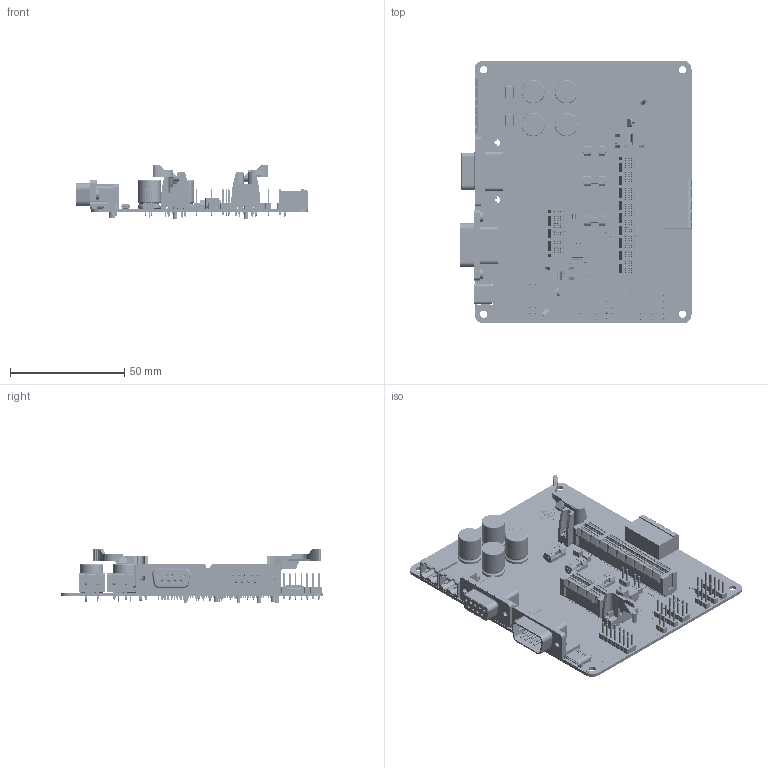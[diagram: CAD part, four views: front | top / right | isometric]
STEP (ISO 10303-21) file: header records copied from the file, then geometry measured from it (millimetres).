
FILE_DESCRIPTION(/* description */ (''),/* implementation_level */ '2;1');
FILE_NAME(/* name */ 'C:/work/PADS designs/SlotTypeModule/TMCM-BB1/V11/3D/TMCM-BB1_V11.step',/* time_stamp */ '2020-05-13T13:49:23+03:00',/* author */ (''),/* organization */ (''),/* preprocessor_version */ 'ST-DEVELOPER v18.1',/* originating_system */ 'Autodesk Translation Framework v9.3.0.1241',/* authorisation */ '');
FILE_SCHEMA (('AUTOMOTIVE_DESIGN { 1 0 10303 214 3 1 1 }'));
Products named in the file (101): TMCM-BB1_V11; DesignRootModel; Submodel-ICB2EF59_part_simplified_HSO8P_1.27BA; Submodel-C:workDS designslotTypeModuleTMCM-BB1V11CADTMCM-BB1_V11_PCB3
DInput_Shsop8.xtd; hsop8; Submodel-CO854A85_part_simplified_PCIE-036_1.0B; Submodel-C:workDS designslotTypeModuleTMCM-BB1V11CADTMCM-BB1_V11_PCB3
DInput_SIE-036-02-F-D-TH.xtd; PCIE-036-02-F-D-TH; Submodel-CO4D69F5_part_simplified_PCIE-098_1.0B; Submodel-C:workDS designslotTypeModuleTMCM-BB1V11CADTMCM-BB1_V11_PCB3
DInput_SIE-098-02-F-D-TH.xtd; PCIE-098-02-F-D-TH; Submodel-CODB02A8_part_simplified_USB-C_HA; Submodel-C:workDS designslotTypeModuleTMCM-BB1V11CADTMCM-BB1_V11_PCB3
DInput_SUSB-c_right.xtd; USB-c_right; Submodel-ME5551FE_part_simplified_10042618A; Submodel-C:workDS designslotTypeModuleTMCM-BB1V11CADTMCM-BB1_V11_PCB3
DInput_Sretention clip.xtd; retention clip; Submodel-DI732B18_part_simplified_SMBA; Submodel-DI75D999_part_simplified_SMBA; Submodel-C:workDS designslotTypeModuleTMCM-BB1V11CADTMCM-BB1_V11_PCB3
DInput_Ssmb.xtd; smb; Submodel-CO0C6E35_part_simplified_PT115-T330-02_5.0B; Submodel-C:workDS designslotTypeModuleTMCM-BB1V11CADTMCM-BB1_V11_PCB3
DInput_Spt115-t330-02.xtd; pt115-t330-02; Submodel-CAB889E8_part_simplified_C1206B; Submodel-C:workDS designslotTypeModuleTMCM-BB1V11CADTMCM-BB1_V11_PCB3
DInput_Sc1206.xtd; c1206; Submodel-CA946C0B_part_simplified_EL125THB; Submodel-CA0079F7_part_simplified_C1210B; Submodel-CA8F93C6_part_simplified_C1210B; Submodel-C:workDS designslotTypeModuleTMCM-BB1V11CADTMCM-BB1_V11_PCB3
DInput_Sc1210.xtd; c1210; Submodel-CA154AA4_part_simplified_EL125THB; Submodel-C:workDS designslotTypeModuleTMCM-BB1V11CADTMCM-BB1_V11_PCB3
DInput_SEl125_TH.xtd; El125_TH; Submodel-RE7FD55C_part_simplified_R0402; Submodel-REAF2B4A_part_simplified_R0402; Submodel-RE9261F8_part_simplified_R0603; Submodel-RE7B8EC4_part_simplified_R0603; Submodel-LE8F4187_part_simplified_L0603 ...
Assembly tree (150 placements, depth 5):
  TMCM-BB1_V11
    DesignRootModel
      Submodel-ICB2EF59_part_simplified_HSO8P_1.27BA
        Submodel-C:workDS designslotTypeModuleTMCM-BB1V11CADTMCM-BB1_V11_PCB3
DInput_Shsop8.xtd
          hsop8
      Submodel-CO854A85_part_simplified_PCIE-036_1.0B
        Submodel-C:workDS designslotTypeModuleTMCM-BB1V11CADTMCM-BB1_V11_PCB3
DInput_SIE-036-02-F-D-TH.xtd
          PCIE-036-02-F-D-TH
      Submodel-CO4D69F5_part_simplified_PCIE-098_1.0B
        Submodel-C:workDS designslotTypeModuleTMCM-BB1V11CADTMCM-BB1_V11_PCB3
DInput_SIE-098-02-F-D-TH.xtd
          PCIE-098-02-F-D-TH
      Submodel-CODB02A8_part_simplified_USB-C_HA
        Submodel-C:workDS designslotTypeModuleTMCM-BB1V11CADTMCM-BB1_V11_PCB3
DInput_SUSB-c_right.xtd
          USB-c_right
      Submodel-ME5551FE_part_simplified_10042618A  x2
        Submodel-C:workDS designslotTypeModuleTMCM-BB1V11CADTMCM-BB1_V11_PCB3
DInput_Sretention clip.xtd
          retention clip
      Submodel-DI732B18_part_simplified_SMBA
        Submodel-C:workDS designslotTypeModuleTMCM-BB1V11CADTMCM-BB1_V11_PCB3
DInput_Ssmb.xtd
          smb
      Submodel-DI75D999_part_simplified_SMBA
        Submodel-C:workDS designslotTypeModuleTMCM-BB1V11CADTMCM-BB1_V11_PCB3
DInput_Ssmb.xtd
          smb
      Submodel-CO0C6E35_part_simplified_PT115-T330-02_5.0B  x2
        Submodel-C:workDS designslotTypeModuleTMCM-BB1V11CADTMCM-BB1_V11_PCB3
DInput_Spt115-t330-02.xtd
          pt115-t330-02
      Submodel-CAB889E8_part_simplified_C1206B  x2
        Submodel-C:workDS designslotTypeModuleTMCM-BB1V11CADTMCM-BB1_V11_PCB3
DInput_Sc1206.xtd
          c1206
      Submodel-CA946C0B_part_simplified_EL125THB  x2
        Submodel-C:workDS designslotTypeModuleTMCM-BB1V11CADTMCM-BB1_V11_PCB3
DInput_SEl125_TH.xtd
          El125_TH
      Submodel-CA0079F7_part_simplified_C1210B  x2
        Submodel-C:workDS designslotTypeModuleTMCM-BB1V11CADTMCM-BB1_V11_PCB3
DInput_Sc1210.xtd
          c1210
      Submodel-CA8F93C6_part_simplified_C1210B  x2
        Submodel-C:workDS designslotTypeModuleTMCM-BB1V11CADTMCM-BB1_V11_PCB3
DInput_Sc1210.xtd
          c1210
      Submodel-CA154AA4_part_simplified_EL125THB  x2
        Submodel-C:workDS designslotTypeModuleTMCM-BB1V11CADTMCM-BB1_V11_PCB3
DInput_SEl125_TH.xtd
          El125_TH
      Submodel-RE7FD55C_part_simplified_R0402
        Submodel-C:workDS designslotTypeModuleTMCM-BB1V11CADTMCM-BB1_V11_PCB3
DInput_Sr0402.xtd
          r0402
      Submodel-CO1073A6_part_simplified_HEADER-1X2_V_2.54  x3
        Submodel-C:workDS designslotTypeModuleTMCM-BB1V11CADTMCM-BB1_V11_PCB3
DInput_Sheader-1x2.xtd
          header-1x2
      Submodel-REAF2B4A_part_simplified_R0402  x3
        Submodel-C:workDS designslotTypeModuleTMCM-BB1V11CADTMCM-BB1_V11_PCB3
DInput_Sr0402.xtd
          r0402
      Submodel-RE9261F8_part_simplified_R0603  x2
        Submodel-C:workDS designslotTypeModuleTMCM-BB1V11CADTMCM-BB1_V11_PCB3
DInput_Sr0603.xtd
          r0603
      Submodel-RE7B8EC4_part_simplified_R0603
        Submodel-C:workDS designslotTypeModuleTMCM-BB1V11CADTMCM-BB1_V11_PCB3
DInput_Sr0603.xtd
          r0603
      Submodel-LE8F4187_part_simplified_L0603
        Submodel-C:workDS designslotTypeModuleTMCM-BB1V11CADTMCM-BB1_V11_PCB3
DInput_Sr0603.xtd
          r0603
      Submodel-FUACB6A0_part_simplified_NANO157  x2
Bounding box: 101.17 x 115 x 23.39 mm (x, y, z)
Volume: 35768.1 mm3; surface area: 106818.6 mm2
Topology: 2307 solids, 2307 shells, 39945 faces, 105510 edges, 70151 vertices
Faces by surface type: plane 33751, cylinder 6120, torus 32, bspline 20, sphere 13, cone 9
Full cylindrical faces by diameter (mm): 0.5 x12, 0.6 x880, 1 x12, 1.016 x9, 1.1 x216, 1.2 x133, 1.3 x268, 1.5 x24, 1.8 x8, 1.9 x99, 1.981 x2, 2 x128, 2.05 x12, 2.2 x4, 2.27 x8, 2.286 x2, 2.3 x12, 2.4 x16, 2.794 x2, 2.8 x3, 2.9 x8, 3 x8, 3.1 x12, 3.2 x12, 3.8 x2, 3.9 x8, 4 x8, 4.572 x2, 6.35 x8, 6.45 x8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
Entity records: 1177730 total; most frequent: CARTESIAN_POINT 206872, ORIENTED_EDGE 201112, DIRECTION 188337, EDGE_CURVE 100556, LINE 89161, VECTOR 89161, VERTEX_POINT 66954, AXIS2_PLACEMENT_3D 49588
